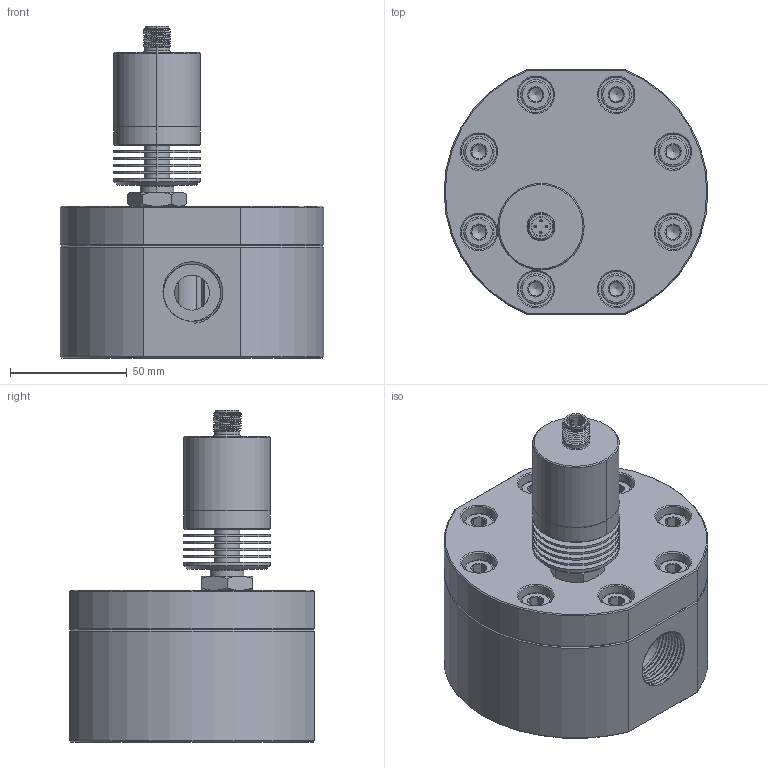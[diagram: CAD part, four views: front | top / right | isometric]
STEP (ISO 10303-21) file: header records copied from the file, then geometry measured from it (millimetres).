
FILE_DESCRIPTION( (''), '2;1');
FILE_NAME( 'QZKD_M15_G3-4_M12_high-temp.step', '2024-06-05T08:28:49+08:00', (''), (''), '', '', '');
FILE_SCHEMA (('AUTOMOTIVE_DESIGN { 1 0 10303 214 3 1 1 1 }'));
Length unit declared in the file: millimetre
Products named in the file (1): QZKD M15_G3-4_M12_high-temp
Bounding box: 113 x 105 x 142.2 mm (x, y, z)
Volume: 604533.4 mm3; surface area: 141376.7 mm2
Topology: 19 solids, 19 shells, 848 faces, 1954 edges, 1186 vertices
Faces by surface type: cylinder 314, plane 222, cone 179, torus 76, bspline 39, sphere 16, extrusion 2
Full cylindrical faces by diameter (mm): 4 x6, 5 x2, 6 x8, 6.8 x8, 7 x6, 7.76 x8, 8 x2, 8.5 x8, 10 x4, 13 x8, 14 x16, 15 x10, 24.5 x16
Entity records: 32467 total; most frequent: CARTESIAN_POINT 15180, DIRECTION 3689, ORIENTED_EDGE 3140, AXIS2_PLACEMENT_3D 1619, EDGE_CURVE 1570, EDGE_LOOP 1129, VERTEX_POINT 1097, CIRCLE 837
